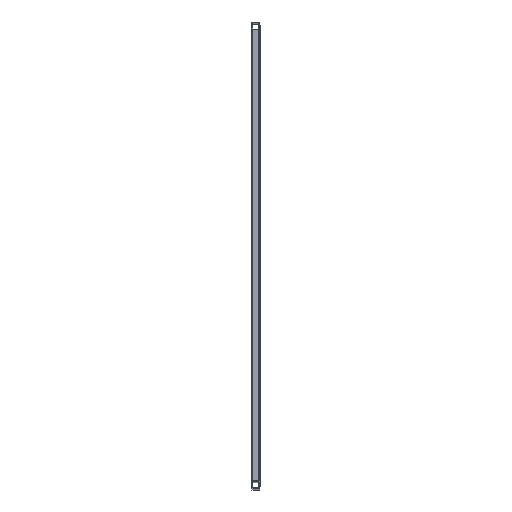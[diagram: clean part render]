
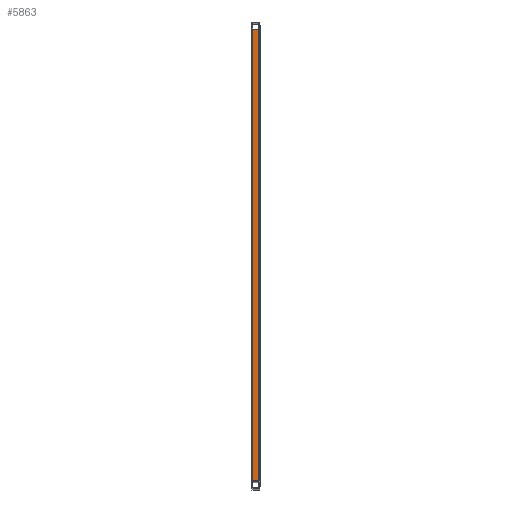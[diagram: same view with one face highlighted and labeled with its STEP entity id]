
A CAD part, top view. The second image highlights one B-rep face of the part: STEP entity #5863.
In plain terms, the highlighted planar face has unit normal (0, 0, 1) as drawn and (0, 1, 0) by its records, which use the part's own axes.
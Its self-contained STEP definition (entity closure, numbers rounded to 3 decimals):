
#271 = VERTEX_POINT ( 'NONE', #12181 ) ;
#342 = CARTESIAN_POINT ( 'NONE',  ( -10., 10., 1160. ) ) ;
#863 = DIRECTION ( 'NONE',  ( 0., 0., -1. ) ) ;
#1336 = ORIENTED_EDGE ( 'NONE', *, *, #2385, .F. ) ;
#2385 = EDGE_CURVE ( 'NONE', #7867, #9413, #8513, .T. ) ;
#3443 = CARTESIAN_POINT ( 'NONE',  ( 10., 10., 1160. ) ) ;
#3673 = FACE_OUTER_BOUND ( 'NONE', #4305, .T. ) ;
#3821 = CARTESIAN_POINT ( 'NONE',  ( -10., 10., 0. ) ) ;
#4001 = AXIS2_PLACEMENT_3D ( 'NONE', #7496, #8387, #11291 ) ;
#4061 = LINE ( 'NONE', #11078, #5420 ) ;
#4181 = VERTEX_POINT ( 'NONE', #3821 ) ;
#4305 = EDGE_LOOP ( 'NONE', ( #9719, #7517, #1336, #9998 ) ) ;
#4360 = VECTOR ( 'NONE', #9505, 1000. ) ;
#5106 = EDGE_CURVE ( 'NONE', #9413, #4181, #9423, .T. ) ;
#5420 = VECTOR ( 'NONE', #6005, 1000. ) ;
#5863 = ADVANCED_FACE ( 'NONE', ( #3673 ), #9375, .F. ) ;
#6005 = DIRECTION ( 'NONE',  ( -1., 0., 0. ) ) ;
#6419 = CARTESIAN_POINT ( 'NONE',  ( -10., 10., 1160. ) ) ;
#7265 = DIRECTION ( 'NONE',  ( 0., 0., -1. ) ) ;
#7496 = CARTESIAN_POINT ( 'NONE',  ( -10., 10., 1160. ) ) ;
#7517 = ORIENTED_EDGE ( 'NONE', *, *, #5106, .F. ) ;
#7867 = VERTEX_POINT ( 'NONE', #12116 ) ;
#8387 = DIRECTION ( 'NONE',  ( 0., -1., 0. ) ) ;
#8513 = LINE ( 'NONE', #12303, #4360 ) ;
#8530 = LINE ( 'NONE', #3443, #9795 ) ;
#9375 = PLANE ( 'NONE',  #4001 ) ;
#9413 = VERTEX_POINT ( 'NONE', #342 ) ;
#9423 = LINE ( 'NONE', #6419, #9675 ) ;
#9505 = DIRECTION ( 'NONE',  ( -1., 0., 0. ) ) ;
#9675 = VECTOR ( 'NONE', #863, 1000. ) ;
#9719 = ORIENTED_EDGE ( 'NONE', *, *, #11496, .T. ) ;
#9795 = VECTOR ( 'NONE', #7265, 1000. ) ;
#9998 = ORIENTED_EDGE ( 'NONE', *, *, #10853, .T. ) ;
#10853 = EDGE_CURVE ( 'NONE', #7867, #271, #8530, .T. ) ;
#11078 = CARTESIAN_POINT ( 'NONE',  ( -10., 10., 0. ) ) ;
#11291 = DIRECTION ( 'NONE',  ( 0., 0., -1. ) ) ;
#11496 = EDGE_CURVE ( 'NONE', #271, #4181, #4061, .T. ) ;
#12116 = CARTESIAN_POINT ( 'NONE',  ( 10., 10., 1160. ) ) ;
#12181 = CARTESIAN_POINT ( 'NONE',  ( 10., 10., 0. ) ) ;
#12303 = CARTESIAN_POINT ( 'NONE',  ( -10., 10., 1160. ) ) ;
